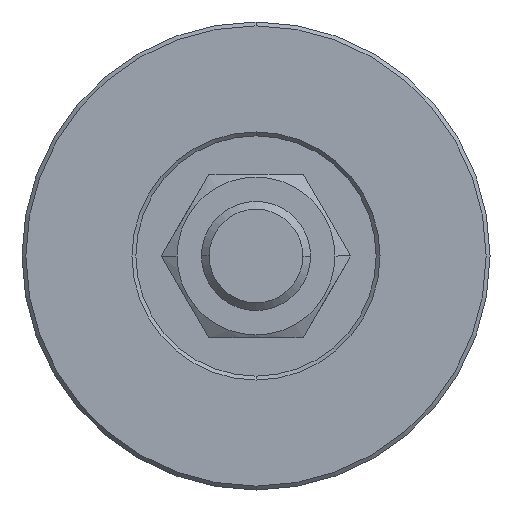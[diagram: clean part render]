
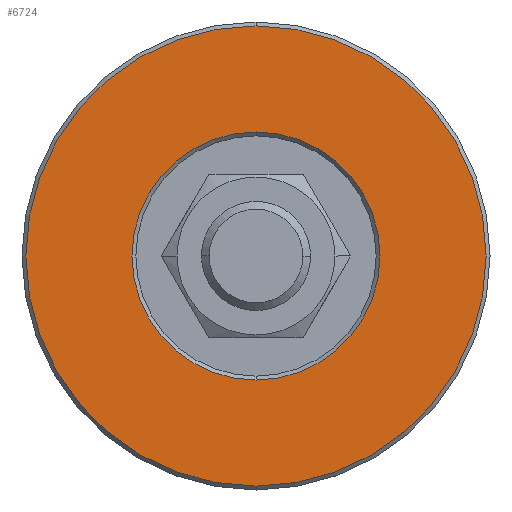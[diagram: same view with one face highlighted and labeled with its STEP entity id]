
A CAD part, front view. The second image highlights one B-rep face of the part: STEP entity #6724.
In plain terms, the highlighted planar face has unit normal (0, -1, 0).
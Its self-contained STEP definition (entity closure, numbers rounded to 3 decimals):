
#43 = AXIS2_PLACEMENT_3D ( 'NONE', #2530, #1315, #5524 ) ;
#172 = DIRECTION ( 'NONE',  ( 0., 0., -1. ) ) ;
#307 = CARTESIAN_POINT ( 'NONE',  ( 0., 0., 0. ) ) ;
#627 = VERTEX_POINT ( 'NONE', #7233 ) ;
#713 = EDGE_CURVE ( 'NONE', #7172, #3694, #1490, .T. ) ;
#849 = DIRECTION ( 'NONE',  ( 0., 0., -1. ) ) ;
#1315 = DIRECTION ( 'NONE',  ( 0., -1., 0. ) ) ;
#1490 = CIRCLE ( 'NONE', #6201, 29.5 ) ;
#1804 = AXIS2_PLACEMENT_3D ( 'NONE', #3777, #5517, #172 ) ;
#1810 = DIRECTION ( 'NONE',  ( 0., 0., -1. ) ) ;
#2431 = ORIENTED_EDGE ( 'NONE', *, *, #713, .T. ) ;
#2471 = CARTESIAN_POINT ( 'NONE',  ( 0., 0., 0. ) ) ;
#2530 = CARTESIAN_POINT ( 'NONE',  ( 15.4, 0., 0. ) ) ;
#2565 = CARTESIAN_POINT ( 'NONE',  ( 0., 0., 0. ) ) ;
#3177 = CIRCLE ( 'NONE', #3760, 15.9 ) ;
#3311 = ORIENTED_EDGE ( 'NONE', *, *, #3924, .T. ) ;
#3325 = FACE_OUTER_BOUND ( 'NONE', #5391, .T. ) ;
#3462 = CIRCLE ( 'NONE', #4404, 15.9 ) ;
#3633 = EDGE_CURVE ( 'NONE', #6730, #627, #3462, .T. ) ;
#3694 = VERTEX_POINT ( 'NONE', #6043 ) ;
#3732 = ORIENTED_EDGE ( 'NONE', *, *, #7256, .T. ) ;
#3760 = AXIS2_PLACEMENT_3D ( 'NONE', #307, #4511, #849 ) ;
#3777 = CARTESIAN_POINT ( 'NONE',  ( 0., 0., 0. ) ) ;
#3918 = EDGE_LOOP ( 'NONE', ( #6555, #3311 ) ) ;
#3924 = EDGE_CURVE ( 'NONE', #627, #6730, #3177, .T. ) ;
#4238 = DIRECTION ( 'NONE',  ( 0., 1., 0. ) ) ;
#4296 = PLANE ( 'NONE',  #43 ) ;
#4404 = AXIS2_PLACEMENT_3D ( 'NONE', #2471, #4238, #1810 ) ;
#4511 = DIRECTION ( 'NONE',  ( 0., 1., 0. ) ) ;
#5391 = EDGE_LOOP ( 'NONE', ( #3732, #2431 ) ) ;
#5517 = DIRECTION ( 'NONE',  ( 0., -1., 0. ) ) ;
#5524 = DIRECTION ( 'NONE',  ( 0., 0., -1. ) ) ;
#5539 = DIRECTION ( 'NONE',  ( 0., 0., -1. ) ) ;
#6043 = CARTESIAN_POINT ( 'NONE',  ( 0., 0., 29.5 ) ) ;
#6201 = AXIS2_PLACEMENT_3D ( 'NONE', #2565, #7329, #5539 ) ;
#6555 = ORIENTED_EDGE ( 'NONE', *, *, #3633, .T. ) ;
#6724 = ADVANCED_FACE ( 'NONE', ( #3325, #7658 ), #4296, .T. ) ;
#6730 = VERTEX_POINT ( 'NONE', #7315 ) ;
#7169 = CARTESIAN_POINT ( 'NONE',  ( 0., 0., -29.5 ) ) ;
#7172 = VERTEX_POINT ( 'NONE', #7169 ) ;
#7233 = CARTESIAN_POINT ( 'NONE',  ( 0., 0., 15.9 ) ) ;
#7256 = EDGE_CURVE ( 'NONE', #3694, #7172, #7263, .T. ) ;
#7263 = CIRCLE ( 'NONE', #1804, 29.5 ) ;
#7315 = CARTESIAN_POINT ( 'NONE',  ( 0., 0., -15.9 ) ) ;
#7329 = DIRECTION ( 'NONE',  ( 0., -1., 0. ) ) ;
#7658 = FACE_BOUND ( 'NONE', #3918, .T. ) ;
